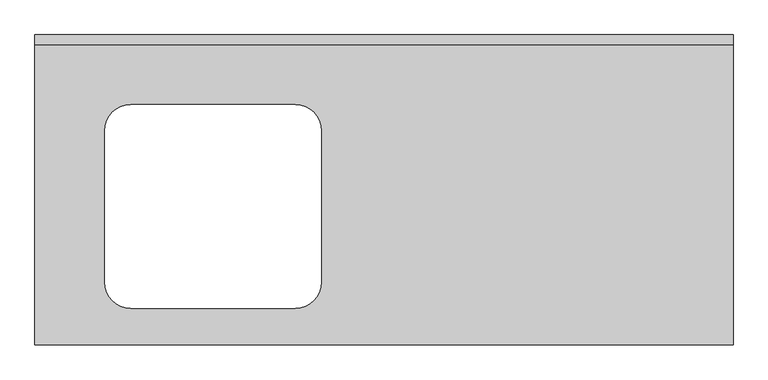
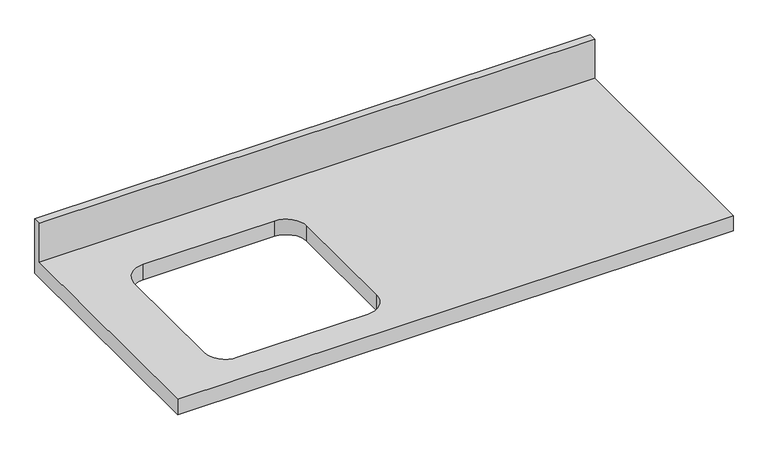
"""IFC4 building model written with IfcOpenShell, lengths in millimetres: furniture geometry, M_带水槽开口的台面 : 600mm 深."""

import ifcopenshell
import ifcopenshell.guid

model = None  # the IFC model being written
_history = None  # IfcOwnerHistory: only IFC2X3 demands one
_inside = {}  # id of a spatial element -> (the spatial element, [elements in it])
_under = {}  # id of a project, library or spatial element -> (it, [spatial elements below it])
_declared = {}  # id of a project -> (the project, [libraries it declares])
_typed = {}  # id of a type object -> (the type object, [elements of that type])
_made_of = {}  # id of a material, layer set ... -> (it, [elements and type objects made of it])


def new_model(schema):
    """Start an empty IFC model of exactly this schema.

    Asked for "IFC4X3", IfcOpenShell would pick the latest addendum, in which some entities
    have other attributes; the version numbers below select the first issue.
    IFC2X3 requires an IfcOwnerHistory on every rooted entity: one is made here for all.
    """
    global model, _history
    if schema == "IFC4X3":
        model = ifcopenshell.file(schema_version=(4, 3, 0, 0))
    else:
        model = ifcopenshell.file(schema=schema)
    _inside.clear()
    _under.clear()
    _declared.clear()
    _typed.clear()
    _made_of.clear()
    _history = None
    if model.schema == "IFC2X3":
        org = make("IfcOrganization", Name="unknown")
        user = make(
            "IfcPersonAndOrganization",
            ThePerson=make("IfcPerson", FamilyName="unknown"),
            TheOrganization=org,
        )
        app = make(
            "IfcApplication",
            ApplicationDeveloper=org,
            Version="unknown",
            ApplicationFullName="unknown",
            ApplicationIdentifier="unknown",
        )
        _history = make(
            "IfcOwnerHistory",
            OwningUser=user,
            OwningApplication=app,
            ChangeAction="ADDED",
            CreationDate=0,
        )
    return model


def make(cls, **values):
    """One entity of the class cls with the attributes given. An attribute that is None is left unset."""
    return model.create_entity(
        cls, **{name: value for name, value in values.items() if value is not None}
    )


def rooted(cls, **values):
    """An entity with a GlobalId (a new one), such as an element, a storey or a relation."""
    return make(cls, GlobalId=ifcopenshell.guid.new(), OwnerHistory=_history, **values)


def si_unit(unit_type, name, prefix=None):
    """IfcSIUnit, for example si_unit("LENGTHUNIT", "METRE", prefix="MILLI")."""
    return make("IfcSIUnit", UnitType=unit_type, Prefix=prefix, Name=name)


def assignment(units):
    """IfcUnitAssignment: the units of a project."""
    return None if units is None else make("IfcUnitAssignment", Units=units)


def point(xyz):
    """IfcCartesianPoint."""
    return None if xyz is None else make("IfcCartesianPoint", Coordinates=xyz)


def direction(xyz):
    """IfcDirection."""
    return None if xyz is None else make("IfcDirection", DirectionRatios=xyz)


def frame(location, z_axis=None, x_axis=None):
    """IfcAxis2Placement3D, a coordinate frame: its origin and axes. An axis left out is left unset."""
    return make(
        "IfcAxis2Placement3D",
        Location=point(location),
        Axis=direction(z_axis),
        RefDirection=direction(x_axis),
    )


def origin():
    """The frame at (0, 0, 0) with its axes left unset."""
    return frame((0.0, 0.0, 0.0))


def place(relative_to, where):
    """IfcLocalPlacement: puts the frame where relative to a parent placement (None: the world)."""
    return make(
        "IfcLocalPlacement", PlacementRelTo=relative_to, RelativePlacement=where
    )


def context(
    kind, dimensions, precision=None, world=None, true_north=None, identifier=None
):
    """IfcGeometricRepresentationContext, for example the 3D "Model" context."""
    return make(
        "IfcGeometricRepresentationContext",
        ContextIdentifier=identifier,
        ContextType=kind,
        CoordinateSpaceDimension=dimensions,
        Precision=precision,
        WorldCoordinateSystem=world,
        TrueNorth=true_north,
    )


def project(units=None, contexts=None):
    """IfcProject with its units and contexts."""
    return rooted(
        "IfcProject",
        Name="project",
        RepresentationContexts=contexts,
        UnitsInContext=assignment(units),
    )


def spatial(cls, under=None, at=None, **own):
    """A site, building, storey or space (cls), placed at a placement, below another one or the project."""
    s = rooted(cls, ObjectPlacement=at, **own)
    if under is not None:
        _under.setdefault(under.id(), (under, []))[1].append(s)
    return s


def polyline(points):
    """IfcPolyline through the points."""
    return make("IfcPolyline", Points=[point(p) for p in points])


def circle_curve(where, radius):
    """IfcCircle in the frame where."""
    return make("IfcCircle", Position=where, Radius=radius)


def shape(context_of_items, identifier, shape_type, items):
    """IfcShapeRepresentation: the items that make up one representation, for example the "Body"."""
    return make(
        "IfcShapeRepresentation",
        ContextOfItems=context_of_items,
        RepresentationIdentifier=identifier,
        RepresentationType=shape_type,
        Items=items,
    )


def source(mapping_origin, context_of_items, identifier, shape_type, items):
    """IfcRepresentationMap: a shape defined once, which mapped items show again and again."""
    return make(
        "IfcRepresentationMap",
        MappingOrigin=mapping_origin,
        MappedRepresentation=shape(context_of_items, identifier, shape_type, items),
    )


def transform(
    local_origin,
    x_axis=None,
    y_axis=None,
    z_axis=None,
    scale=None,
    scale2=None,
    scale3=None,
    uniform=True,
):
    """IfcCartesianTransformationOperator3D, or its non-uniform kind. x_axis, y_axis, z_axis: its Axis1, 2, 3."""
    if uniform:
        return make(
            "IfcCartesianTransformationOperator3D",
            Axis1=direction(x_axis),
            Axis2=direction(y_axis),
            LocalOrigin=point(local_origin),
            Scale=scale,
            Axis3=direction(z_axis),
        )
    return make(
        "IfcCartesianTransformationOperator3DnonUniform",
        Axis1=direction(x_axis),
        Axis2=direction(y_axis),
        LocalOrigin=point(local_origin),
        Scale=scale,
        Axis3=direction(z_axis),
        Scale2=scale2,
        Scale3=scale3,
    )


def mapped(mapping_source, mapping_target):
    """IfcMappedItem: shows the shape of a source again, moved by a transform."""
    return make(
        "IfcMappedItem", MappingSource=mapping_source, MappingTarget=mapping_target
    )


def made_of(thing, what):
    """Note that an element or type object is made of a material, layer set ...; save() writes the relation."""
    if what is not None:
        _made_of.setdefault(what.id(), (what, []))[1].append(thing)
    return thing


def element(
    cls,
    number,
    at=None,
    inside=None,
    cuts=None,
    type_object=None,
    material=None,
    context=None,
    identifier="Body",
    shape_type=None,
    held_by="IfcProductDefinitionShape",
    body=None,
    shapes=None,
    **own,
):
    """One element of the class cls, such as IfcWall. Its Tag is "e" and its number.

    at: its placement. inside: the storey or other place that contains it. cuts: it is an
    opening in that element (IfcRelVoidsElement). A single representation is given by context,
    identifier, shape_type and body (its items); several are given by shapes. held_by: the class
    of the entity that holds the representations. save() writes the other relations.
    """
    e = rooted(cls, Tag="e%d" % number, ObjectPlacement=at, **own)
    if body is not None:
        shapes = [shape(context, identifier, shape_type, body)]
    if shapes is not None:
        e.Representation = make(held_by, Representations=shapes)
    if inside is not None:
        _inside.setdefault(inside.id(), (inside, []))[1].append(e)
    if cuts is not None:
        rooted(
            "IfcRelVoidsElement", RelatingBuildingElement=cuts, RelatedOpeningElement=e
        )
    if type_object is not None:
        _typed.setdefault(type_object.id(), (type_object, []))[1].append(e)
    return made_of(e, material)


def aggregate(whole, parts):
    """IfcRelAggregates: a whole, such as a stair, and the parts it consists of."""
    return rooted("IfcRelAggregates", RelatingObject=whole, RelatedObjects=parts)


def save(model, path):
    """Write the relations noted so far, then the file.

    IfcRelAggregates (storeys below a building ...), IfcRelContainedInSpatialStructure (elements
    in a storey), IfcRelDefinesByType, IfcRelAssociatesMaterial and IfcRelDeclares: one each for
    every whole, place, type object, material and project.
    """
    for whole, parts in _under.values():
        aggregate(whole, parts)
    for where, things in _inside.values():
        rooted(
            "IfcRelContainedInSpatialStructure",
            RelatedElements=things,
            RelatingStructure=where,
        )
    for kind, things in _typed.values():
        rooted("IfcRelDefinesByType", RelatedObjects=things, RelatingType=kind)
    for what, things in _made_of.values():
        rooted("IfcRelAssociatesMaterial", RelatedObjects=things, RelatingMaterial=what)
    for by, libraries in _declared.values():
        rooted("IfcRelDeclares", RelatingContext=by, RelatedDefinitions=libraries)
    model.write(path)


def plane_surface(at):
    """IfcPlane: the flat surface through the origin of the frame at, square to its z axis."""
    return make("IfcPlane", Position=at)


def revolved_surface(curve, axis_point, axis_direction):
    """IfcSurfaceOfRevolution: the curve turned about the line through axis_point along axis_direction."""
    return make(
        "IfcSurfaceOfRevolution",
        SweptCurve=make("IfcArbitraryOpenProfileDef", ProfileType="CURVE", Curve=curve),
        AxisPosition=make("IfcAxis1Placement", Location=point(axis_point), Axis=direction(axis_direction)),
    )


def advanced_brep(points, edges, surfaces, faces):
    """IfcAdvancedBrep: a solid bounded by faces that lie on surfaces and meet in shared edges.

    An edge is (start, end): straight between two places in points (the first is 0);
    or (start, end, curve); or (start, end, curve, False) where it runs against its curve.
    A face is (place in surfaces, loops), or (place, loops, False) where it looks against
    its surface's normal. A loop lists edges by number (the first is 1), with a minus sign
    where the edge is run from its end to its start. The first loop is the outer one.
    """
    corners = [point(p) for p in points]
    vertices = [make("IfcVertexPoint", VertexGeometry=c) for c in corners]
    made = []
    for start, end, *more in edges:
        made.append(
            make(
                "IfcEdgeCurve",
                EdgeStart=vertices[start],
                EdgeEnd=vertices[end],
                EdgeGeometry=more[0] if more else make("IfcPolyline", Points=[corners[start], corners[end]]),
                SameSense=more[1] if len(more) > 1 else True,
            )
        )
    hull = []
    for where, loops, *sense in faces:
        bounds = []
        for j, loop in enumerate(loops):
            ring = [make("IfcOrientedEdge", EdgeElement=made[abs(k) - 1], Orientation=k > 0) for k in loop]
            bounds.append(
                make(
                    "IfcFaceOuterBound" if j == 0 else "IfcFaceBound",
                    Bound=make("IfcEdgeLoop", EdgeList=ring),
                    Orientation=True,
                )
            )
        hull.append(make("IfcAdvancedFace", Bounds=bounds, FaceSurface=surfaces[where], SameSense=sense[0] if sense else True))
    return make("IfcAdvancedBrep", Outer=make("IfcClosedShell", CfsFaces=hull))


def furniture_ca1210f2(model_context):
    return source(origin(), model_context, "Body", "AdvancedBrep", [
        advanced_brep(
        [(-1200.4622951, -610.0, 900.0), (171.5377049, -610.0, 900.0), (171.5377049, -19.05, 900.0), (-1200.4622951, -19.05, 900.0), (-1012.3622951, -137.3, 900.0), (-688.5622951, -137.3, 900.0), (-637.7622951, -188.1, 900.0), (-637.7622951, -486.9, 900.0), (-688.5622951, -537.7, 900.0), (-1012.3622951, -537.7, 900.0), (-1063.1622951, -486.9, 900.0), (-1063.1622951, -188.1, 900.0), (171.5377049, 0.0, 860.0), (171.5377049, -610.0, 860.0), (-1200.4622951, -610.0, 860.0), (-1200.4622951, 0.0, 860.0), (-688.5622951, -137.3, 860.0), (-1012.3622951, -137.3, 860.0), (-1063.1622951, -188.1, 860.0), (-1063.1622951, -486.9, 860.0), (-1012.3622951, -537.7, 860.0), (-688.5622951, -537.7, 860.0), (-637.7622951, -486.9, 860.0), (-637.7622951, -188.1, 860.0), (-1200.4622951, 0.0, 1001.6), (171.5377049, 0.0, 1001.6), (-1200.4622951, -19.05, 1001.6), (171.5377049, -19.05, 1001.6)],
        [
            (0, 1),
            (1, 2),
            (2, 3),
            (3, 0),
            (4, 5),
            (5, 6, circle_curve(frame((-688.5622951, -188.1, 900.0), z_axis=(0.0, 0.0, -1.0), x_axis=(1.0, 0.0, 0.0)), 50.8)),
            (6, 7),
            (7, 8, circle_curve(frame((-688.5622951, -486.9, 900.0), z_axis=(0.0, 0.0, -1.0), x_axis=(1.0, 0.0, 0.0)), 50.8)),
            (8, 9),
            (9, 10, circle_curve(frame((-1012.3622951, -486.9, 900.0), z_axis=(0.0, 0.0, -1.0), x_axis=(1.0, 0.0, 0.0)), 50.8)),
            (10, 11),
            (11, 4, circle_curve(frame((-1012.3622951, -188.1, 900.0), z_axis=(0.0, 0.0, -1.0), x_axis=(1.0, 0.0, 0.0)), 50.8)),
            (12, 13),
            (13, 14),
            (14, 15),
            (15, 12),
            (16, 17),
            (17, 18, circle_curve(frame((-1012.3622951, -188.1, 860.0), z_axis=(0.0, 0.0, 1.0), x_axis=(1.0, 0.0, 0.0)), 50.8)),
            (18, 19),
            (19, 20, circle_curve(frame((-1012.3622951, -486.9, 860.0), z_axis=(0.0, 0.0, 1.0), x_axis=(1.0, 0.0, 0.0)), 50.8)),
            (20, 21),
            (21, 22, circle_curve(frame((-688.5622951, -486.9, 860.0), z_axis=(0.0, 0.0, 1.0), x_axis=(1.0, 0.0, 0.0)), 50.8)),
            (22, 23),
            (23, 16, circle_curve(frame((-688.5622951, -188.1, 860.0), z_axis=(0.0, 0.0, 1.0), x_axis=(1.0, 0.0, 0.0)), 50.8)),
            (15, 24),
            (24, 25),
            (25, 12),
            (14, 0),
            (3, 26),
            (26, 24),
            (13, 1),
            (25, 27),
            (27, 2),
            (26, 27),
            (4, 17),
            (16, 5),
            (11, 18),
            (10, 19),
            (9, 20),
            (8, 21),
            (7, 22),
            (6, 23),
        ],
        [
            plane_surface(frame((-1200.4622951, 0.0, 900.0), z_axis=(0.0, 0.0, 1.0), x_axis=(-1.0, 0.0, 0.0))),
            plane_surface(frame((-1200.4622951, 0.0, 860.0), z_axis=(0.0, 0.0, -1.0), x_axis=(1.0, 0.0, 0.0))),
            plane_surface(frame((171.5377049, 0.0, 900.0), z_axis=(0.0, 1.0, 0.0), x_axis=(0.0, 0.0, -1.0))),
            plane_surface(frame((-1200.4622951, 0.0, 900.0), z_axis=(-1.0, 0.0, 0.0), x_axis=(0.0, 0.0, -1.0))),
            plane_surface(frame((-1200.4622951, -610.0, 900.0), z_axis=(0.0, -1.0, 0.0), x_axis=(0.0, 0.0, -1.0))),
            plane_surface(frame((171.5377049, -610.0, 900.0), z_axis=(1.0, 0.0, 0.0), x_axis=(0.0, 0.0, -1.0))),
            plane_surface(frame((-1200.4622951, 0.0, 1001.6), z_axis=(0.0, 0.0, 1.0), x_axis=(0.0, -1.0, 0.0))),
            plane_surface(frame((-1200.4622951, -19.05, 1001.6), z_axis=(0.0, -1.0, 0.0), x_axis=(0.0, 0.0, -1.0))),
            plane_surface(frame((-688.5622951, -137.3, 900.0), z_axis=(0.0, -1.0, 0.0), x_axis=(0.0, 0.0, -1.0))),
            revolved_surface(polyline([(-961.5622951, -188.1, 900.0), (-961.5622951, -188.1, 860.0)]), (-1012.3622951, -188.1, 860.0), (0.0, 0.0, 1.0)),
            plane_surface(frame((-1063.1622951, -188.1, 900.0), z_axis=(1.0, 0.0, 0.0), x_axis=(0.0, 0.0, -1.0))),
            revolved_surface(polyline([(-961.5622951, -486.9, 900.0), (-961.5622951, -486.9, 860.0)]), (-1012.3622951, -486.9, 860.0), (0.0, 0.0, 1.0)),
            plane_surface(frame((-1012.3622951, -537.7, 900.0), z_axis=(0.0, 1.0, 0.0), x_axis=(0.0, 0.0, -1.0))),
            revolved_surface(polyline([(-637.7622951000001, -486.9, 900.0), (-637.7622951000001, -486.9, 860.0)]), (-688.5622951, -486.9, 860.0), (0.0, 0.0, 1.0)),
            plane_surface(frame((-637.7622951, -486.9, 900.0), z_axis=(-1.0, 0.0, 0.0), x_axis=(0.0, 0.0, -1.0))),
            revolved_surface(polyline([(-637.7622951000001, -188.1, 900.0), (-637.7622951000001, -188.1, 860.0)]), (-688.5622951, -188.1, 860.0), (0.0, 0.0, 1.0)),
        ],
        [
            (0, [[1, 2, 3, 4], [5, 6, 7, 8, 9, 10, 11, 12]]),
            (1, [[13, 14, 15, 16], [17, 18, 19, 20, 21, 22, 23, 24]]),
            (2, [[-16, 25, 26, 27]]),
            (3, [[-15, 28, -4, 29, 30, -25]]),
            (4, [[-1, -28, -14, 31]]),
            (5, [[-13, -27, 32, 33, -2, -31]]),
            (6, [[-30, 34, -32, -26]]),
            (7, [[-34, -29, -3, -33]]),
            (8, [[35, -17, 36, -5]]),
            (9, [[-35, -12, 37, -18]]),
            (10, [[-37, -11, 38, -19]]),
            (11, [[-38, -10, 39, -20]]),
            (12, [[-39, -9, 40, -21]]),
            (13, [[-40, -8, 41, -22]]),
            (14, [[-41, -7, 42, -23]]),
            (15, [[-36, -24, -42, -6]]),
        ],
    ),
    ])


if __name__ == "__main__":
    model = new_model("IFC4")
    model_context = context("Model", 3, world=origin())
    ifc_project = project(units=[si_unit("LENGTHUNIT", "METRE", prefix="MILLI")], contexts=[model_context])
    site = spatial("IfcSite", under=ifc_project)
    building = spatial("IfcBuilding", under=site)
    placement = place(None, origin())
    furniture_shape = furniture_ca1210f2(model_context)
    element("IfcFurniture", 1, ObjectType="M_带水槽开口的台面 : 600mm 深", at=placement, inside=building, context=model_context, shape_type="MappedRepresentation", body=[
        mapped(furniture_shape, transform((0.0, 0.0, 0.0), x_axis=(1.0, 0.0, 0.0), y_axis=(0.0, 1.0, 0.0), z_axis=(0.0, 0.0, 1.0))),
    ])
    save(model, "model.ifc")
